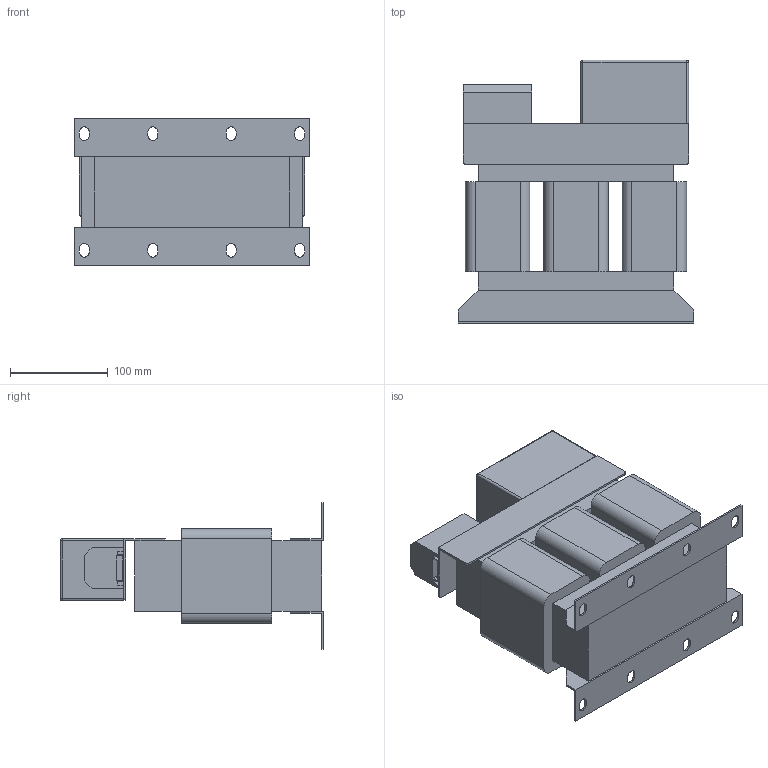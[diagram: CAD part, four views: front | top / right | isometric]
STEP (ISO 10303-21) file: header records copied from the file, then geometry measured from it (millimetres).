
FILE_DESCRIPTION(/* description */ (''),/* implementation_level */ '2;1');
FILE_NAME(/* name */ 'Sin-T4-032.stp',/* time_stamp */ '2025-03-11T17:11:16+04:00',/* author */ ('Лео'),/* organization */ (''),/* preprocessor_version */ 'ST-DEVELOPER v19.2',/* originating_system */ 'Autodesk Inventor 2024',/* authorisation */ '');
FILE_SCHEMA (('AUTOMOTIVE_DESIGN { 1 0 10303 214 3 1 1 }'));
Length unit declared in the file: millimetre
Products named in the file (1): Sin-T4-004
Bounding box: 240 x 269 x 150 mm (x, y, z)
Volume: 3830153 mm3; surface area: 406611.1 mm2
Topology: 10 solids, 10 shells, 144 faces, 360 edges, 236 vertices
Faces by surface type: plane 100, cylinder 40, sphere 4
Entity records: 4338 total; most frequent: CARTESIAN_POINT 741, DIRECTION 730, ORIENTED_EDGE 720, EDGE_CURVE 360, LINE 280, VECTOR 280, VERTEX_POINT 236, AXIS2_PLACEMENT_3D 225
